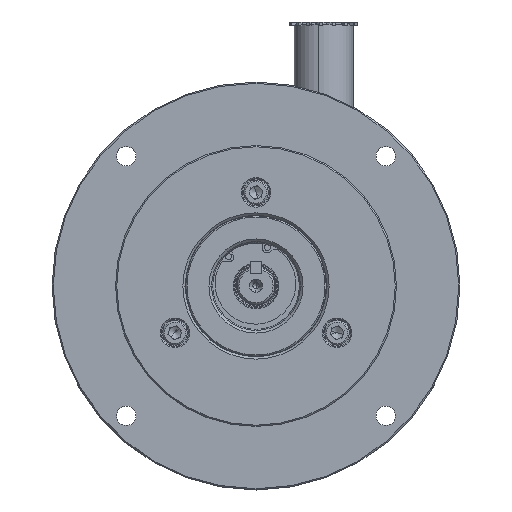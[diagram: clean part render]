
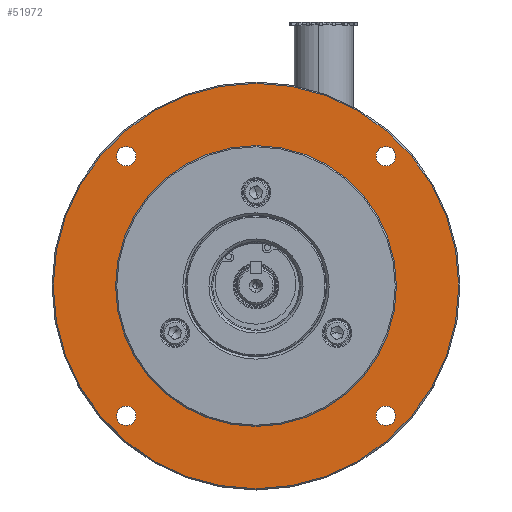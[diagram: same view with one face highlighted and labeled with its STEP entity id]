
A CAD part, top view. The second image highlights one B-rep face of the part: STEP entity #51972.
In plain terms, the highlighted planar face has unit normal (0, 0, 1).
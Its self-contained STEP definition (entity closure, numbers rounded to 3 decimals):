
#54 = CARTESIAN_POINT ( 'NONE',  ( -52.821, 56.821, 42.325 ) ) ;
#733 = AXIS2_PLACEMENT_3D ( 'NONE', #49895, #6065, #36734 ) ;
#910 = EDGE_CURVE ( 'NONE', #4917, #28689, #49699, .T. ) ;
#932 = FACE_BOUND ( 'NONE', #39805, .T. ) ;
#3070 = CARTESIAN_POINT ( 'NONE',  ( -82.5, 4., 42.325 ) ) ;
#3300 = CIRCLE ( 'NONE', #25495, 57.15 ) ;
#3674 = FACE_OUTER_BOUND ( 'NONE', #10197, .T. ) ;
#4642 = AXIS2_PLACEMENT_3D ( 'NONE', #54, #17919, #17550 ) ;
#4917 = VERTEX_POINT ( 'NONE', #8438 ) ;
#5009 = EDGE_CURVE ( 'NONE', #12254, #44078, #51220, .T. ) ;
#6065 = DIRECTION ( 'NONE',  ( 0., 0., 1. ) ) ;
#6929 = VERTEX_POINT ( 'NONE', #28633 ) ;
#8405 = DIRECTION ( 'NONE',  ( 0., 0., -1. ) ) ;
#8438 = CARTESIAN_POINT ( 'NONE',  ( -56.79, 56.821, 42.325 ) ) ;
#9684 = EDGE_CURVE ( 'NONE', #6929, #50734, #40117, .T. ) ;
#9744 = DIRECTION ( 'NONE',  ( 1., 0., 0. ) ) ;
#10197 = EDGE_LOOP ( 'NONE', ( #33807, #12959 ) ) ;
#10202 = CARTESIAN_POINT ( 'NONE',  ( 56.79, 56.821, 42.325 ) ) ;
#10314 = CIRCLE ( 'NONE', #13410, 82.5 ) ;
#11644 = DIRECTION ( 'NONE',  ( 1., 0., 0. ) ) ;
#12254 = VERTEX_POINT ( 'NONE', #15202 ) ;
#12620 = AXIS2_PLACEMENT_3D ( 'NONE', #49381, #31830, #45311 ) ;
#12685 = VERTEX_POINT ( 'NONE', #35102 ) ;
#12959 = ORIENTED_EDGE ( 'NONE', *, *, #54658, .F. ) ;
#13410 = AXIS2_PLACEMENT_3D ( 'NONE', #40426, #41002, #9744 ) ;
#14206 = CARTESIAN_POINT ( 'NONE',  ( -52.821, -48.821, 42.325 ) ) ;
#14257 = ORIENTED_EDGE ( 'NONE', *, *, #5009, .F. ) ;
#15202 = CARTESIAN_POINT ( 'NONE',  ( -56.79, -48.821, 42.325 ) ) ;
#15208 = DIRECTION ( 'NONE',  ( -1., 0., 0. ) ) ;
#15512 = DIRECTION ( 'NONE',  ( 0., 0., 1. ) ) ;
#16071 = DIRECTION ( 'NONE',  ( 0., 0., -1. ) ) ;
#16208 = VERTEX_POINT ( 'NONE', #56360 ) ;
#16284 = VERTEX_POINT ( 'NONE', #56948 ) ;
#16611 = AXIS2_PLACEMENT_3D ( 'NONE', #43760, #8405, #30673 ) ;
#16766 = FACE_BOUND ( 'NONE', #49288, .T. ) ;
#17349 = ORIENTED_EDGE ( 'NONE', *, *, #33789, .F. ) ;
#17478 = AXIS2_PLACEMENT_3D ( 'NONE', #18703, #44630, #18324 ) ;
#17550 = DIRECTION ( 'NONE',  ( -1., 0., 0. ) ) ;
#17919 = DIRECTION ( 'NONE',  ( 0., 0., 1. ) ) ;
#17941 = ORIENTED_EDGE ( 'NONE', *, *, #44424, .F. ) ;
#18324 = DIRECTION ( 'NONE',  ( -1., 0., 0. ) ) ;
#18703 = CARTESIAN_POINT ( 'NONE',  ( 52.821, 56.821, 42.325 ) ) ;
#19302 = EDGE_LOOP ( 'NONE', ( #32362, #32366 ) ) ;
#19965 = DIRECTION ( 'NONE',  ( -1., 0., 0. ) ) ;
#20181 = CARTESIAN_POINT ( 'NONE',  ( -52.821, -48.821, 42.325 ) ) ;
#20293 = CARTESIAN_POINT ( 'NONE',  ( 52.821, -48.821, 42.325 ) ) ;
#22521 = ORIENTED_EDGE ( 'NONE', *, *, #25670, .T. ) ;
#23496 = CARTESIAN_POINT ( 'NONE',  ( -48.852, 56.821, 42.325 ) ) ;
#24535 = VERTEX_POINT ( 'NONE', #38573 ) ;
#25281 = CIRCLE ( 'NONE', #16611, 57.15 ) ;
#25495 = AXIS2_PLACEMENT_3D ( 'NONE', #29680, #16071, #11644 ) ;
#25670 = EDGE_CURVE ( 'NONE', #53201, #24535, #25281, .T. ) ;
#27014 = FACE_BOUND ( 'NONE', #49395, .T. ) ;
#27214 = AXIS2_PLACEMENT_3D ( 'NONE', #54608, #50547, #32606 ) ;
#28396 = PLANE ( 'NONE',  #43069 ) ;
#28633 = CARTESIAN_POINT ( 'NONE',  ( 48.852, 56.821, 42.325 ) ) ;
#28689 = VERTEX_POINT ( 'NONE', #23496 ) ;
#28925 = DIRECTION ( 'NONE',  ( -1., 0., 0. ) ) ;
#28959 = DIRECTION ( 'NONE',  ( 0., 0., 1. ) ) ;
#29680 = CARTESIAN_POINT ( 'NONE',  ( 0., 4., 42.325 ) ) ;
#29779 = AXIS2_PLACEMENT_3D ( 'NONE', #20181, #32835, #15208 ) ;
#30426 = CIRCLE ( 'NONE', #29779, 3.969 ) ;
#30635 = ORIENTED_EDGE ( 'NONE', *, *, #36851, .T. ) ;
#30639 = AXIS2_PLACEMENT_3D ( 'NONE', #14206, #28959, #19965 ) ;
#30673 = DIRECTION ( 'NONE',  ( 1., 0., 0. ) ) ;
#31524 = CIRCLE ( 'NONE', #733, 3.969 ) ;
#31830 = DIRECTION ( 'NONE',  ( 0., 0., 1. ) ) ;
#32299 = DIRECTION ( 'NONE',  ( 1., 0., 0. ) ) ;
#32362 = ORIENTED_EDGE ( 'NONE', *, *, #32594, .F. ) ;
#32366 = ORIENTED_EDGE ( 'NONE', *, *, #36320, .F. ) ;
#32594 = EDGE_CURVE ( 'NONE', #12685, #16284, #47462, .T. ) ;
#32606 = DIRECTION ( 'NONE',  ( -1., 0., 0. ) ) ;
#32835 = DIRECTION ( 'NONE',  ( 0., 0., 1. ) ) ;
#33789 = EDGE_CURVE ( 'NONE', #28689, #4917, #42266, .T. ) ;
#33807 = ORIENTED_EDGE ( 'NONE', *, *, #34961, .F. ) ;
#34120 = AXIS2_PLACEMENT_3D ( 'NONE', #50034, #40788, #32299 ) ;
#34961 = EDGE_CURVE ( 'NONE', #16208, #39091, #46137, .T. ) ;
#35102 = CARTESIAN_POINT ( 'NONE',  ( 48.852, -48.821, 42.325 ) ) ;
#35414 = CARTESIAN_POINT ( 'NONE',  ( 57.15, 4., 42.325 ) ) ;
#36320 = EDGE_CURVE ( 'NONE', #16284, #12685, #43370, .T. ) ;
#36734 = DIRECTION ( 'NONE',  ( -1., 0., 0. ) ) ;
#36851 = EDGE_CURVE ( 'NONE', #24535, #53201, #3300, .T. ) ;
#37792 = DIRECTION ( 'NONE',  ( -1., 0., 0. ) ) ;
#38573 = CARTESIAN_POINT ( 'NONE',  ( -57.15, 4., 42.325 ) ) ;
#39091 = VERTEX_POINT ( 'NONE', #3070 ) ;
#39805 = EDGE_LOOP ( 'NONE', ( #41741, #17349 ) ) ;
#40117 = CIRCLE ( 'NONE', #17478, 3.969 ) ;
#40232 = AXIS2_PLACEMENT_3D ( 'NONE', #20293, #15512, #28925 ) ;
#40426 = CARTESIAN_POINT ( 'NONE',  ( 0., 4., 42.325 ) ) ;
#40788 = DIRECTION ( 'NONE',  ( 0., 0., -1. ) ) ;
#41002 = DIRECTION ( 'NONE',  ( 0., 0., -1. ) ) ;
#41741 = ORIENTED_EDGE ( 'NONE', *, *, #910, .F. ) ;
#42266 = CIRCLE ( 'NONE', #4642, 3.969 ) ;
#43069 = AXIS2_PLACEMENT_3D ( 'NONE', #55226, #46317, #37792 ) ;
#43370 = CIRCLE ( 'NONE', #27214, 3.969 ) ;
#43745 = ORIENTED_EDGE ( 'NONE', *, *, #9684, .F. ) ;
#43760 = CARTESIAN_POINT ( 'NONE',  ( 0., 4., 42.325 ) ) ;
#44078 = VERTEX_POINT ( 'NONE', #47545 ) ;
#44424 = EDGE_CURVE ( 'NONE', #44078, #12254, #30426, .T. ) ;
#44630 = DIRECTION ( 'NONE',  ( 0., 0., 1. ) ) ;
#45311 = DIRECTION ( 'NONE',  ( -1., 0., 0. ) ) ;
#46137 = CIRCLE ( 'NONE', #34120, 82.5 ) ;
#46300 = FACE_BOUND ( 'NONE', #19302, .T. ) ;
#46317 = DIRECTION ( 'NONE',  ( 0., 0., 1. ) ) ;
#47026 = FACE_BOUND ( 'NONE', #48188, .T. ) ;
#47462 = CIRCLE ( 'NONE', #40232, 3.969 ) ;
#47545 = CARTESIAN_POINT ( 'NONE',  ( -48.852, -48.821, 42.325 ) ) ;
#47551 = EDGE_CURVE ( 'NONE', #50734, #6929, #31524, .T. ) ;
#48188 = EDGE_LOOP ( 'NONE', ( #14257, #17941 ) ) ;
#49288 = EDGE_LOOP ( 'NONE', ( #43745, #49497 ) ) ;
#49381 = CARTESIAN_POINT ( 'NONE',  ( -52.821, 56.821, 42.325 ) ) ;
#49395 = EDGE_LOOP ( 'NONE', ( #22521, #30635 ) ) ;
#49497 = ORIENTED_EDGE ( 'NONE', *, *, #47551, .F. ) ;
#49699 = CIRCLE ( 'NONE', #12620, 3.969 ) ;
#49895 = CARTESIAN_POINT ( 'NONE',  ( 52.821, 56.821, 42.325 ) ) ;
#50034 = CARTESIAN_POINT ( 'NONE',  ( 0., 4., 42.325 ) ) ;
#50547 = DIRECTION ( 'NONE',  ( 0., 0., 1. ) ) ;
#50734 = VERTEX_POINT ( 'NONE', #10202 ) ;
#51220 = CIRCLE ( 'NONE', #30639, 3.969 ) ;
#51972 = ADVANCED_FACE ( 'NONE', ( #46300, #47026, #16766, #932, #27014, #3674 ), #28396, .T. ) ;
#53201 = VERTEX_POINT ( 'NONE', #35414 ) ;
#54608 = CARTESIAN_POINT ( 'NONE',  ( 52.821, -48.821, 42.325 ) ) ;
#54658 = EDGE_CURVE ( 'NONE', #39091, #16208, #10314, .T. ) ;
#55226 = CARTESIAN_POINT ( 'NONE',  ( 0., -53.15, 42.325 ) ) ;
#56360 = CARTESIAN_POINT ( 'NONE',  ( 82.5, 4., 42.325 ) ) ;
#56948 = CARTESIAN_POINT ( 'NONE',  ( 56.79, -48.821, 42.325 ) ) ;
